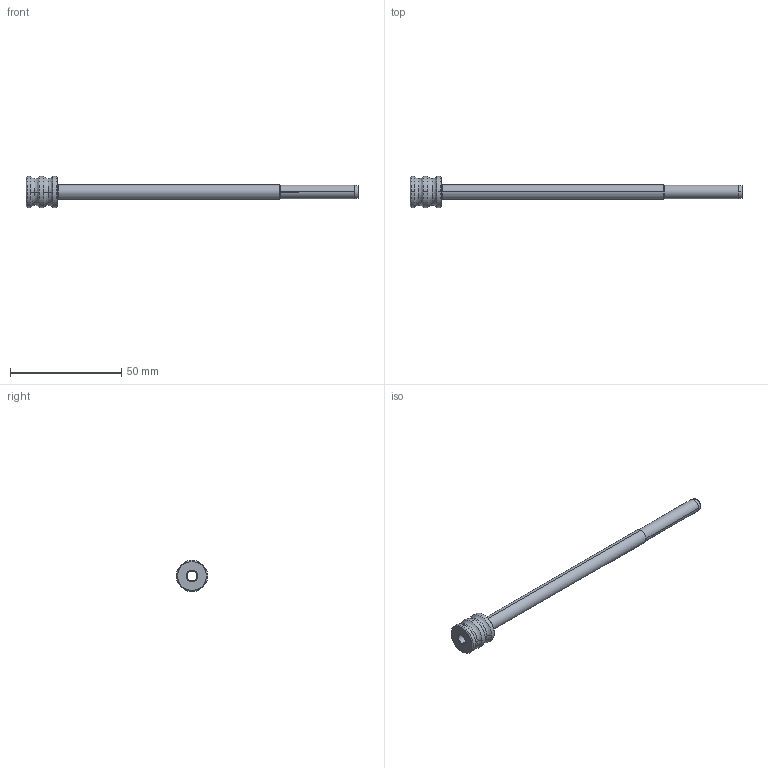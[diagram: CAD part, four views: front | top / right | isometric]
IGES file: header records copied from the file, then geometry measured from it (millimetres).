
Start section: SolidWorks IGES file using analytic representation for surfaces
Global section: file name: C:\Users\e.bondaruk\Desktop\Íîâàÿ ïàïêà\50.10.2030.IGS; native system: SolidWorks 2022; preprocessor: SolidWorks 2022; author: e.bondaruk; date: 230928.105152; units: millimetre
Bounding box: 149 x 14 x 14 mm (x, y, z)
Surface area: 5681.8 mm2 (no closed solid volume)
Topology: 0 solids, 0 shells, 35 faces, 344 edges, 344 vertices
Faces by surface type: revolution 22, bspline 13
